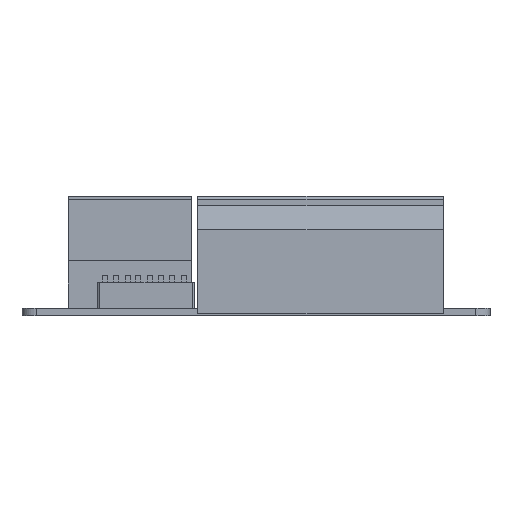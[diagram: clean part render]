
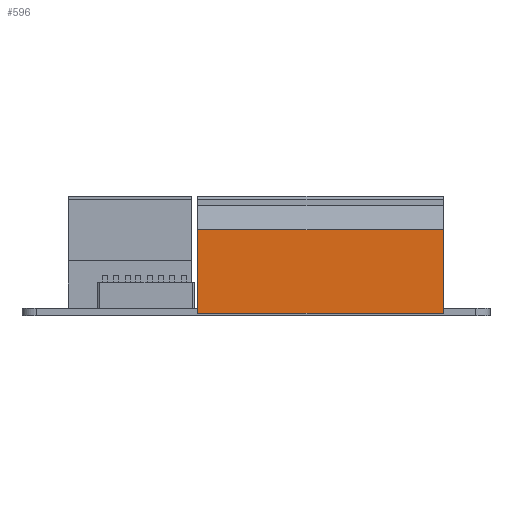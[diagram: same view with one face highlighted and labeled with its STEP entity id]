
A CAD part, front view. The second image highlights one B-rep face of the part: STEP entity #596.
In plain terms, the highlighted planar face has unit normal (0, -1, 0).
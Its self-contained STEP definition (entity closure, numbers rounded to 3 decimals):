
#463=FACE_OUTER_BOUND('',#1010,.T.);
#596=ADVANCED_FACE('',(#463),#749,.T.);
#749=PLANE('',#3092);
#1010=EDGE_LOOP('',(#1454,#1455,#1456,#1457));
#1454=ORIENTED_EDGE('',*,*,#2296,.F.);
#1455=ORIENTED_EDGE('',*,*,#2317,.F.);
#1456=ORIENTED_EDGE('',*,*,#2272,.T.);
#1457=ORIENTED_EDGE('',*,*,#2316,.T.);
#2008=VERTEX_POINT('',#4113);
#2009=VERTEX_POINT('',#4115);
#2030=VERTEX_POINT('',#4166);
#2031=VERTEX_POINT('',#4167);
#2272=EDGE_CURVE('',#2008,#2009,#2598,.T.);
#2296=EDGE_CURVE('',#2030,#2031,#2612,.T.);
#2316=EDGE_CURVE('',#2009,#2031,#2632,.T.);
#2317=EDGE_CURVE('',#2008,#2030,#2633,.T.);
#2598=LINE('',#4116,#2838);
#2612=LINE('',#4165,#2852);
#2632=LINE('',#4204,#2872);
#2633=LINE('',#4206,#2873);
#2838=VECTOR('',#3386,1.);
#2852=VECTOR('',#3430,1.);
#2872=VECTOR('',#3464,1.);
#2873=VECTOR('',#3467,1.);
#3092=AXIS2_PLACEMENT_3D('',#4208,#3470,#3471);
#3386=DIRECTION('',(1.,0.,0.));
#3430=DIRECTION('',(1.,0.,0.));
#3464=DIRECTION('',(0.,0.,1.));
#3467=DIRECTION('',(0.,0.,1.));
#3470=DIRECTION('',(0.,-1.,0.));
#3471=DIRECTION('',(0.,0.,1.));
#4113=CARTESIAN_POINT('',(437.834,363.626,-1.067));
#4115=CARTESIAN_POINT('',(489.502,363.626,-1.067));
#4116=CARTESIAN_POINT('',(461.201,363.626,-1.067));
#4165=CARTESIAN_POINT('',(489.568,363.626,16.533));
#4166=CARTESIAN_POINT('',(437.834,363.626,16.533));
#4167=CARTESIAN_POINT('',(489.502,363.626,16.533));
#4204=CARTESIAN_POINT('',(489.502,363.626,4.866));
#4206=CARTESIAN_POINT('',(437.834,363.626,4.866));
#4208=CARTESIAN_POINT('',(461.201,363.626,4.866));
